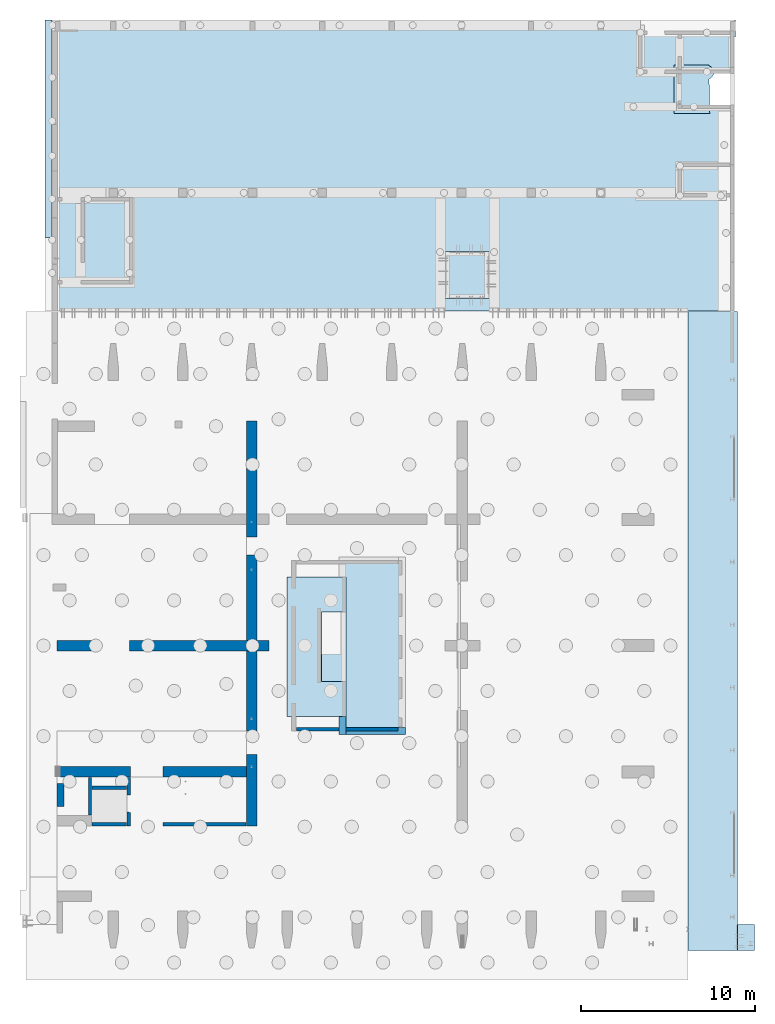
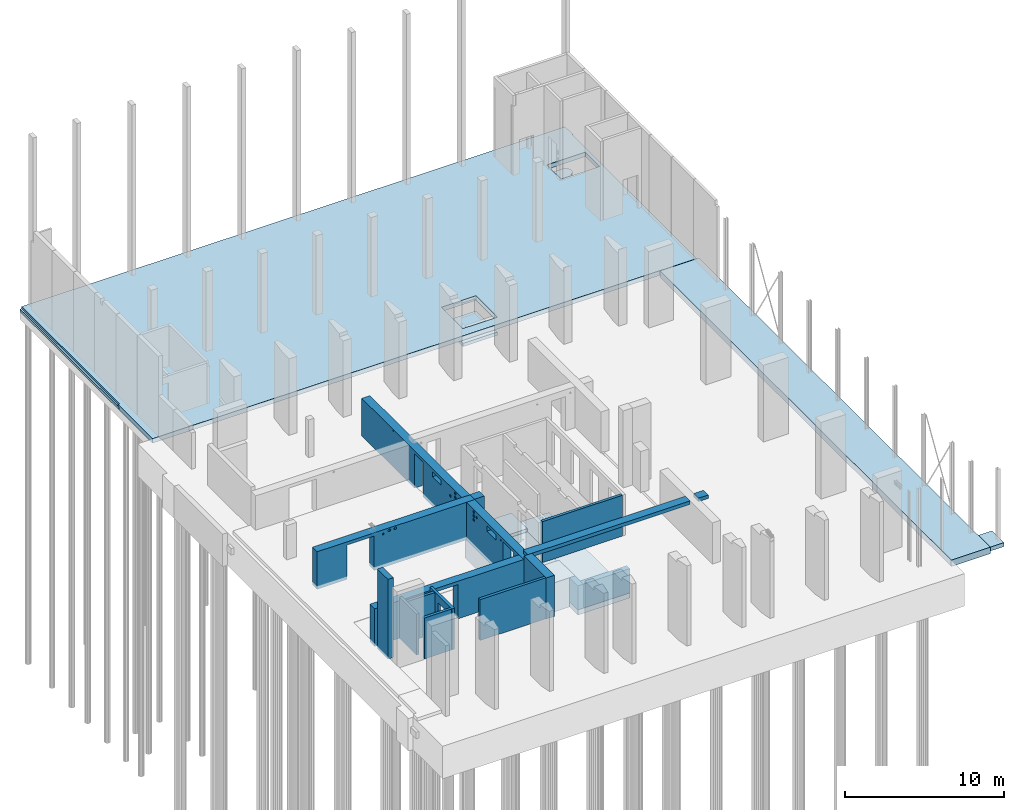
# One storey, part 18 of 26: 13 walls, 8 slabs, 28 openings.
"""IFC2X3 building model written with IfcOpenShell, lengths in millimetres."""

import ifcopenshell
import ifcopenshell.guid

model = None  # the IFC model being written
_history = None  # IfcOwnerHistory: only IFC2X3 demands one
_inside = {}  # id of a spatial element -> (the spatial element, [elements in it])
_under = {}  # id of a project, library or spatial element -> (it, [spatial elements below it])
_declared = {}  # id of a project -> (the project, [libraries it declares])
_typed = {}  # id of a type object -> (the type object, [elements of that type])
_made_of = {}  # id of a material, layer set ... -> (it, [elements and type objects made of it])


def new_model(schema):
    """Start an empty IFC model of exactly this schema.

    Asked for "IFC4X3", IfcOpenShell would pick the latest addendum, in which some entities
    have other attributes; the version numbers below select the first issue.
    IFC2X3 requires an IfcOwnerHistory on every rooted entity: one is made here for all.
    """
    global model, _history
    if schema == "IFC4X3":
        model = ifcopenshell.file(schema_version=(4, 3, 0, 0))
    else:
        model = ifcopenshell.file(schema=schema)
    _inside.clear()
    _under.clear()
    _declared.clear()
    _typed.clear()
    _made_of.clear()
    _history = None
    if model.schema == "IFC2X3":
        org = make("IfcOrganization", Name="unknown")
        user = make(
            "IfcPersonAndOrganization",
            ThePerson=make("IfcPerson", FamilyName="unknown"),
            TheOrganization=org,
        )
        app = make(
            "IfcApplication",
            ApplicationDeveloper=org,
            Version="unknown",
            ApplicationFullName="unknown",
            ApplicationIdentifier="unknown",
        )
        _history = make(
            "IfcOwnerHistory",
            OwningUser=user,
            OwningApplication=app,
            ChangeAction="ADDED",
            CreationDate=0,
        )
    return model


def make(cls, **values):
    """One entity of the class cls with the attributes given. An attribute that is None is left unset."""
    return model.create_entity(
        cls, **{name: value for name, value in values.items() if value is not None}
    )


def entity(cls, *values):
    """Any entity or typed value of the class cls, its attributes in the order of the schema. None: left unset."""
    e = model.create_entity(cls)
    for i, value in enumerate(values):
        if value is not None:
            e[i] = value
    return e


def rooted(cls, **values):
    """An entity with a GlobalId (a new one), such as an element, a storey or a relation."""
    return make(cls, GlobalId=ifcopenshell.guid.new(), OwnerHistory=_history, **values)


def si_unit(unit_type, name, prefix=None):
    """IfcSIUnit, for example si_unit("LENGTHUNIT", "METRE", prefix="MILLI")."""
    return make("IfcSIUnit", UnitType=unit_type, Prefix=prefix, Name=name)


def converted_unit(unit_type, name, factor, base, dimensions=None, offset=None):
    """IfcConversionBasedUnit, such as the inch: factor (a typed value) times the base unit."""
    return make(
        "IfcConversionBasedUnit"
        if offset is None
        else "IfcConversionBasedUnitWithOffset",
        ConversionOffset=offset,
        Dimensions=None
        if dimensions is None
        else entity("IfcDimensionalExponents", *dimensions),
        UnitType=unit_type,
        Name=name,
        ConversionFactor=make(
            "IfcMeasureWithUnit", ValueComponent=factor, UnitComponent=base
        ),
    )


def derived_unit(unit_type, elements):
    """IfcDerivedUnit: a product of units, each with its exponent."""
    return make(
        "IfcDerivedUnit",
        Elements=[
            make("IfcDerivedUnitElement", Unit=unit, Exponent=power)
            for unit, power in elements
        ],
        UnitType=unit_type,
    )


def assignment(units):
    """IfcUnitAssignment: the units of a project."""
    return None if units is None else make("IfcUnitAssignment", Units=units)


def point(xyz):
    """IfcCartesianPoint."""
    return None if xyz is None else make("IfcCartesianPoint", Coordinates=xyz)


def direction(xyz):
    """IfcDirection."""
    return None if xyz is None else make("IfcDirection", DirectionRatios=xyz)


def frame(location, z_axis=None, x_axis=None):
    """IfcAxis2Placement3D, a coordinate frame: its origin and axes. An axis left out is left unset."""
    return make(
        "IfcAxis2Placement3D",
        Location=point(location),
        Axis=direction(z_axis),
        RefDirection=direction(x_axis),
    )


def frame_2d(location, x_axis=None):
    """IfcAxis2Placement2D, a coordinate frame in the plane: its origin and x axis."""
    return make(
        "IfcAxis2Placement2D", Location=point(location), RefDirection=direction(x_axis)
    )


def origin():
    """The frame at (0, 0, 0) with its axes left unset."""
    return frame((0.0, 0.0, 0.0))


def origin_2d_with_axis():
    """The frame at (0, 0) in the plane with the x axis (1, 0) written out."""
    return frame_2d((0.0, 0.0), x_axis=(1.0, 0.0))


def place(relative_to, where):
    """IfcLocalPlacement: puts the frame where relative to a parent placement (None: the world)."""
    return make(
        "IfcLocalPlacement", PlacementRelTo=relative_to, RelativePlacement=where
    )


def context(
    kind, dimensions, precision=None, world=None, true_north=None, identifier=None
):
    """IfcGeometricRepresentationContext, for example the 3D "Model" context."""
    return make(
        "IfcGeometricRepresentationContext",
        ContextIdentifier=identifier,
        ContextType=kind,
        CoordinateSpaceDimension=dimensions,
        Precision=precision,
        WorldCoordinateSystem=world,
        TrueNorth=true_north,
    )


def subcontext(parent, identifier, kind, view, scale=None):
    """IfcGeometricRepresentationSubContext, for example "Body" below "Model"."""
    return make(
        "IfcGeometricRepresentationSubContext",
        ContextIdentifier=identifier,
        ContextType=kind,
        ParentContext=parent,
        TargetScale=scale,
        TargetView=view,
    )


def project(units=None, contexts=None):
    """IfcProject with its units and contexts."""
    return rooted(
        "IfcProject",
        Name="project",
        RepresentationContexts=contexts,
        UnitsInContext=assignment(units),
    )


def spatial(cls, under=None, at=None, **own):
    """A site, building, storey or space (cls), placed at a placement, below another one or the project."""
    s = rooted(cls, ObjectPlacement=at, **own)
    if under is not None:
        _under.setdefault(under.id(), (under, []))[1].append(s)
    return s


def polyline(points):
    """IfcPolyline through the points."""
    return make("IfcPolyline", Points=[point(p) for p in points])


def circle_curve(where, radius):
    """IfcCircle in the frame where."""
    return make("IfcCircle", Position=where, Radius=radius)


def parameter(value):
    """IfcParameterValue: where a trimmed curve begins or ends, as a parameter of its basis curve."""
    return model.create_entity("IfcParameterValue", value)


def trimmed(basis, trim1, trim2, sense, master):
    """IfcTrimmedCurve: the piece of a basis curve between two trims."""
    return make(
        "IfcTrimmedCurve",
        BasisCurve=basis,
        Trim1=trim1,
        Trim2=trim2,
        SenseAgreement=sense,
        MasterRepresentation=master,
    )


def segment(curve, same_sense, transition):
    """IfcCompositeCurveSegment."""
    return make(
        "IfcCompositeCurveSegment",
        Transition=transition,
        SameSense=same_sense,
        ParentCurve=curve,
    )


def composite_curve(segments, self_intersect=None):
    """IfcCompositeCurve: segments joined end to end."""
    return make("IfcCompositeCurve", Segments=segments, SelfIntersect=self_intersect)


def profile(cls, at=None, kind="AREA", **sizes):
    """A parametric profile (cls). Its sizes go by their IFC names, for example OverallWidth=200.0."""
    return make(cls, ProfileType=kind, Position=at, **sizes)


def rectangle(**sizes):
    """IfcRectangleProfileDef."""
    return profile("IfcRectangleProfileDef", **sizes)


def circle(**sizes):
    """IfcCircleProfileDef."""
    return profile("IfcCircleProfileDef", **sizes)


def outline(outer, holes=None, kind="AREA"):
    """IfcArbitraryClosedProfileDef: a profile drawn as a closed curve; with holes, ...WithVoids."""
    if holes is None:
        return make("IfcArbitraryClosedProfileDef", ProfileType=kind, OuterCurve=outer)
    return make(
        "IfcArbitraryProfileDefWithVoids",
        ProfileType=kind,
        OuterCurve=outer,
        InnerCurves=holes,
    )


def extrude(swept, where, along, depth):
    """IfcExtrudedAreaSolid: the profile swept, set in the frame where, extruded along a direction by depth."""
    return make(
        "IfcExtrudedAreaSolid",
        SweptArea=swept,
        Position=where,
        ExtrudedDirection=direction(along),
        Depth=depth,
    )


def clip(a, b, op="DIFFERENCE"):
    """IfcBooleanClippingResult: the solid a cut by the half space b."""
    return make(
        "IfcBooleanClippingResult", Operator=op, FirstOperand=a, SecondOperand=b
    )


def bounded_halfspace(plane, agree, where, boundary):
    """IfcPolygonalBoundedHalfSpace: a half space limited to a polygon's prism."""
    return make(
        "IfcPolygonalBoundedHalfSpace",
        BaseSurface=make("IfcPlane", Position=plane),
        AgreementFlag=agree,
        Position=where,
        PolygonalBoundary=boundary,
    )


def faces_of(points, faces, orient=None, outer=None):
    """IfcFace entities. A face is a list of loops; a loop is a list of indices into points, from 0.

    orient and outer hold one flag for each loop. By default every Orientation is true, the
    first loop of a face is its IfcFaceOuterBound and the others are IfcFaceBound.
    """
    made = []
    for i, loops in enumerate(faces):
        bounds = []
        for j, loop in enumerate(loops):
            is_outer = j == 0 if outer is None else outer[i][j]
            bounds.append(
                make(
                    "IfcFaceOuterBound" if is_outer else "IfcFaceBound",
                    Bound=make("IfcPolyLoop", Polygon=[points[k] for k in loop]),
                    Orientation=True if orient is None else orient[i][j],
                )
            )
        made.append(make("IfcFace", Bounds=bounds))
    return made


def faceted_brep(points, faces, orient=None, outer=None, voids=None):
    """IfcFacetedBrep: a solid bounded by flat faces; with voids (closed shells), ...WithVoids."""
    shared = [point(p) for p in points]
    hull = make("IfcClosedShell", CfsFaces=faces_of(shared, faces, orient, outer))
    if voids is None:
        return make("IfcFacetedBrep", Outer=hull)
    return make(
        "IfcFacetedBrepWithVoids",
        Outer=hull,
        Voids=[
            make(cls, CfsFaces=faces_of(shared, fs, o, b)) for cls, fs, o, b in voids
        ],
    )


def shape(context_of_items, identifier, shape_type, items):
    """IfcShapeRepresentation: the items that make up one representation, for example the "Body"."""
    return make(
        "IfcShapeRepresentation",
        ContextOfItems=context_of_items,
        RepresentationIdentifier=identifier,
        RepresentationType=shape_type,
        Items=items,
    )


def material(Name=None, Category=None):
    """IfcMaterial."""
    return make("IfcMaterial", Name=Name, Category=Category)


def layer(
    of_material, thickness, ventilated=None, Name=None, Category=None, Priority=None
):
    """IfcMaterialLayer: one layer of a wall or slab, of a material (None: an air gap)."""
    return make(
        "IfcMaterialLayer",
        Material=of_material,
        LayerThickness=thickness,
        IsVentilated=ventilated,
        Name=Name,
        Category=Category,
        Priority=Priority,
    )


def layer_set(layers, Name=None):
    """IfcMaterialLayerSet."""
    return make("IfcMaterialLayerSet", MaterialLayers=layers, LayerSetName=Name)


def layer_usage(for_layer_set, set_direction, sense, offset, extent=None):
    """IfcMaterialLayerSetUsage: how a layer set lies in its element."""
    return make(
        "IfcMaterialLayerSetUsage",
        ForLayerSet=for_layer_set,
        LayerSetDirection=set_direction,
        DirectionSense=sense,
        OffsetFromReferenceLine=offset,
        ReferenceExtent=extent,
    )


def made_of(thing, what):
    """Note that an element or type object is made of a material, layer set ...; save() writes the relation."""
    if what is not None:
        _made_of.setdefault(what.id(), (what, []))[1].append(thing)
    return thing


def type_object(cls, material=None, **own):
    """A type object (cls), such as IfcWallType, which elements share."""
    return made_of(rooted(cls, **own), material)


def element(
    cls,
    number,
    at=None,
    inside=None,
    cuts=None,
    type_object=None,
    material=None,
    context=None,
    identifier="Body",
    shape_type=None,
    held_by="IfcProductDefinitionShape",
    body=None,
    shapes=None,
    **own,
):
    """One element of the class cls, such as IfcWall. Its Tag is "e" and its number.

    at: its placement. inside: the storey or other place that contains it. cuts: it is an
    opening in that element (IfcRelVoidsElement). A single representation is given by context,
    identifier, shape_type and body (its items); several are given by shapes. held_by: the class
    of the entity that holds the representations. save() writes the other relations.
    """
    e = rooted(cls, Tag="e%d" % number, ObjectPlacement=at, **own)
    if body is not None:
        shapes = [shape(context, identifier, shape_type, body)]
    if shapes is not None:
        e.Representation = make(held_by, Representations=shapes)
    if inside is not None:
        _inside.setdefault(inside.id(), (inside, []))[1].append(e)
    if cuts is not None:
        rooted(
            "IfcRelVoidsElement", RelatingBuildingElement=cuts, RelatedOpeningElement=e
        )
    if type_object is not None:
        _typed.setdefault(type_object.id(), (type_object, []))[1].append(e)
    return made_of(e, material)


def aggregate(whole, parts):
    """IfcRelAggregates: a whole, such as a stair, and the parts it consists of."""
    return rooted("IfcRelAggregates", RelatingObject=whole, RelatedObjects=parts)


def save(model, path):
    """Write the relations noted so far, then the file.

    IfcRelAggregates (storeys below a building ...), IfcRelContainedInSpatialStructure (elements
    in a storey), IfcRelDefinesByType, IfcRelAssociatesMaterial and IfcRelDeclares: one each for
    every whole, place, type object, material and project.
    """
    for whole, parts in _under.values():
        aggregate(whole, parts)
    for where, things in _inside.values():
        rooted(
            "IfcRelContainedInSpatialStructure",
            RelatedElements=things,
            RelatingStructure=where,
        )
    for kind, things in _typed.values():
        rooted("IfcRelDefinesByType", RelatedObjects=things, RelatingType=kind)
    for what, things in _made_of.values():
        rooted("IfcRelAssociatesMaterial", RelatedObjects=things, RelatingMaterial=what)
    for by, libraries in _declared.values():
        rooted("IfcRelDeclares", RelatingContext=by, RelatedDefinitions=libraries)
    model.write(path)


model = new_model("IFC2X3")

# Units and contexts
model_context = context("Model", 3, precision=0.01, world=origin(), true_north=direction((6.12303176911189e-17, 1.0)))
body_context = subcontext(model_context, "Body", "Model", "MODEL_VIEW")
ifc_project = project(units=[si_unit("LENGTHUNIT", "METRE", prefix="MILLI"), si_unit("AREAUNIT", "SQUARE_METRE"), si_unit("VOLUMEUNIT", "CUBIC_METRE"), converted_unit("PLANEANGLEUNIT", "DEGREE", entity("IfcRatioMeasure", 0.0174532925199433), si_unit("PLANEANGLEUNIT", "RADIAN"), dimensions=[0, 0, 0, 0, 0, 0, 0]), si_unit("MASSUNIT", "GRAM", prefix="KILO"), derived_unit("MASSDENSITYUNIT", [(si_unit("MASSUNIT", "GRAM", prefix="KILO"), 1), (si_unit("LENGTHUNIT", "METRE"), -3)]), si_unit("TIMEUNIT", "SECOND"), si_unit("FREQUENCYUNIT", "HERTZ"), si_unit("THERMODYNAMICTEMPERATUREUNIT", "DEGREE_CELSIUS"), derived_unit("THERMALTRANSMITTANCEUNIT", [(si_unit("MASSUNIT", "GRAM", prefix="KILO"), 1), (si_unit("THERMODYNAMICTEMPERATUREUNIT", "KELVIN"), -1), (si_unit("TIMEUNIT", "SECOND"), -3)]), derived_unit("VOLUMETRICFLOWRATEUNIT", [(si_unit("LENGTHUNIT", "METRE"), 3), (si_unit("TIMEUNIT", "SECOND"), -1)]), si_unit("ELECTRICCURRENTUNIT", "AMPERE"), si_unit("ELECTRICVOLTAGEUNIT", "VOLT"), si_unit("POWERUNIT", "WATT"), si_unit("FORCEUNIT", "NEWTON", prefix="KILO"), si_unit("ILLUMINANCEUNIT", "LUX"), si_unit("LUMINOUSFLUXUNIT", "LUMEN"), si_unit("LUMINOUSINTENSITYUNIT", "CANDELA"), derived_unit("USERDEFINED", [(si_unit("MASSUNIT", "GRAM", prefix="KILO"), -1), (si_unit("LENGTHUNIT", "METRE"), -2), (si_unit("TIMEUNIT", "SECOND"), 3), (si_unit("LUMINOUSFLUXUNIT", "LUMEN"), 1)]), derived_unit("LINEARVELOCITYUNIT", [(si_unit("LENGTHUNIT", "METRE"), 1), (si_unit("TIMEUNIT", "SECOND"), -1)]), si_unit("PRESSUREUNIT", "PASCAL"), derived_unit("USERDEFINED", [(si_unit("LENGTHUNIT", "METRE"), -2), (si_unit("MASSUNIT", "GRAM", prefix="KILO"), 1), (si_unit("TIMEUNIT", "SECOND"), -2)])], contexts=[model_context])

# Site, building, storey
site_placement = place(None, origin())
site = spatial("IfcSite", under=ifc_project, at=site_placement, Name="Default", CompositionType="ELEMENT")
building_placement = place(site_placement, origin())
building = spatial("IfcBuilding", under=site, at=building_placement, Name="niet gebruiken", CompositionType="ELEMENT")
storey_placement = place(building_placement, origin())
storey = spatial("IfcBuildingStorey", under=building, at=storey_placement, Name="00 begane grond", CompositionType="ELEMENT", Elevation=0.0)

# Slabs
ifc_material_1 = material(Name="NLRS_f2_beton ihwg")
slab_1_placement = place(storey_placement, frame((137730.0, 13445.0, -5000.0)))
element("IfcSlab", 1, at=slab_1_placement, inside=storey, material=ifc_material_1, Name="NLRS_16.13_SFO_LB_fundatiepoer_gen:3400x8000x2400", ObjectType="NLRS_16.13_SFO_LB_fundatiepoer_gen:3400x8000x2400", PredefinedType="BASESLAB", context=body_context, shape_type="Brep", body=[
    faceted_brep([(3400.0, 8000.0, 0.0), (3400.0, 0.0, 0.0), (3000.0, 0.0, 0.0), (0.0, 0.0, 0.0), (0.0, 8000.0, 0.0), (3000.0, 8000.0, 0.0), (0.0, 0.0, 2250.0), (0.0, 8000.0, 2250.0), (3400.0, 0.0, 400.0), (3400.0, 0.0, 2250.0), (3000.0, 0.0, 2250.0), (3400.0, 8000.0, 400.0), (3400.0, 8000.0, 2250.0), (3400.0, 6000.0, 2250.0), (3400.0, 6000.0, 2000.0), (3400.0, 4440.0, 2000.0), (3400.0, 3560.0, 2000.0), (3400.0, 2000.0, 2000.0), (3400.0, 2000.0, 2250.0), (3000.0, 8000.0, 2250.0), (3100.0, 2000.0, 2250.0), (1995.0, 2000.0, 2250.0), (1995.0, 6000.0, 2250.0), (3100.0, 6000.0, 2250.0), (1995.0, 6000.0, 2000.0), (1995.0, 2000.0, 2000.0), (3100.0, 2000.0, 2000.0), (3100.0, 6000.0, 2000.0)], [[[0, 1, 2, 3, 4, 5]], [[4, 3, 6, 7]], [[6, 3, 2, 1, 8, 9, 10]], [[1, 0, 11, 12, 13, 14, 15, 16, 17, 18, 9, 8]], [[4, 7, 19, 12, 11, 0, 5]], [[7, 6, 10, 9, 18, 20, 21, 22, 23, 13, 12, 19]], [[24, 25, 26, 17, 16, 15, 14, 27]], [[22, 24, 27, 14, 13, 23]], [[25, 24, 22, 21]], [[25, 21, 20, 18, 17, 26]]]),
])
ifc_layer_1 = layer(ifc_material_1, 400.0)
ifc_layer_set_1 = layer_set([ifc_layer_1], Name="Floor:NLRS_13.22_FL_beton ihwg d=400_gen")
ifc_layer_usage_1 = layer_usage(ifc_layer_set_1, "AXIS3", "POSITIVE", 0.0)
slab_2_placement = place(storey_placement, origin())
element("IfcSlab", 2, at=slab_2_placement, inside=storey, material=ifc_layer_usage_1, Name="Floor:NLRS_13.22_FL_beton ihwg d=400_gen", ObjectType="Floor:NLRS_13.22_FL_beton ihwg d=400_gen", PredefinedType="BASESLAB", context=body_context, shape_type="SweptSolid", body=[
    extrude(outline(polyline([(-5072.50000000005, -1050.0), (-4027.5, -1050.0), (-4027.5, -650.0), (3972.5, -650.0), (3972.5, -1050.0), (5127.50000000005, -1050.0), (5127.50000000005, 2750.0), (-5072.50000000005, 2750.0), (-5072.50000000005, -1050.0)])), frame((141780.0, 17472.5, -4600.0), z_axis=(0.0, 0.0, -1.0), x_axis=(0.0, 1.0, 0.0)), (0.0, 0.0, 1.0), 400.0),
])

# Slab, opening
ifc_layer_2 = layer(ifc_material_1, 500.0)
ifc_layer_set_2 = layer_set([ifc_layer_2], Name="Floor:NLRS_13.22_FL_beton ihwg d=500_gen")
ifc_layer_usage_2 = layer_usage(ifc_layer_set_2, "AXIS3", "POSITIVE", 0.0)
slab_3_placement = place(storey_placement, frame((160750.0, 0.0, -750.0)))
slab_3 = element("IfcSlab", 3, at=slab_3_placement, inside=storey, material=ifc_layer_usage_2, Name="Floor:NLRS_13.22_FL_beton ihwg d=500_gen", ObjectType="Floor:NLRS_13.22_FL_beton ihwg d=500_gen", PredefinedType="BASESLAB", context=body_context, shape_type="SweptSolid", body=[
    extrude(rectangle(XDim=36700.0000000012, YDim=2840.00000000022, at=frame_2d((0.0, 0.0), x_axis=(0.0, 1.0))), frame((1420.0, 18350.0, 500.0), z_axis=(0.0, 0.0, -1.0), x_axis=(-1.0, 0.0, 0.0)), (0.0, 0.0, 1.0), 500.0),
])
opening_1_placement = place(slab_3_placement, origin())
element("IfcOpeningElement", 4, at=opening_1_placement, cuts=slab_3, ObjectType="Opening", context=body_context, shape_type="SweptSolid", body=[
    extrude(outline(polyline([(-120.005766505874, -17.4714753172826), (119.994169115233, -17.4714753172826), (119.994169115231, -4.39874812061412), (121.002225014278, -4.27053587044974), (120.002225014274, 3.59186337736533), (120.00222501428, 22.5285246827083), (-119.992852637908, 22.5285246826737), (-119.992852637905, 3.63056484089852), (-120.997774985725, -4.27053587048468), (-120.005766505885, -4.39670708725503), (-120.005766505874, -17.4714753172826)])), frame((2822.52852468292, 50.0, 355.0071473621), z_axis=(0.0, 1.0, 0.0), x_axis=(0.0, 0.0, -1.0)), (0.0, 0.0, 1.0), 1399.99999999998),
])

# Slab
ifc_layer_3 = layer(ifc_material_1, 250.0)
ifc_layer_set_3 = layer_set([ifc_layer_3], Name="Floor:NLRS_13.22_FL_beton ihwg d=250_gen")
ifc_layer_usage_3 = layer_usage(ifc_layer_set_3, "AXIS3", "POSITIVE", 0.0)
slab_4_placement = place(storey_placement, origin())
element("IfcSlab", 5, at=slab_4_placement, inside=storey, material=ifc_layer_usage_3, Name="Floor:NLRS_13.22_FL_beton ihwg d=250_gen", ObjectType="Floor:NLRS_13.22_FL_beton ihwg d=250_gen", PredefinedType="BASESLAB", context=body_context, shape_type="SweptSolid", body=[
    extrude(outline(composite_curve([segment(polyline([(-1723.64151521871, -1356.19477339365), (1076.35848478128, -1356.19477339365)]), True, "CONTINUOUS"), segment(polyline([(1076.35848478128, -1356.19477339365), (1076.35848478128, 661.758019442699)]), True, "CONTINUOUS"), segment(polyline([(1076.35848478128, 661.758019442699), (1021.08173419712, 662.745608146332)]), True, "CONTINUOUS"), segment(trimmed(circle_curve(frame_2d((645.178094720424, 551.607733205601), x_axis=(0.958965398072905, 0.28352313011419)), 391.988741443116), [parameter(0.0)], [parameter(145.011717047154)], True, "PARAMETER"), True, "CONTINUOUS"), segment(polyline([(273.484326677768, 676.102376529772), (-1723.64151521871, 711.783542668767)]), True, "CONTINUOUS"), segment(polyline([(-1723.64151521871, 711.783542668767), (-1723.64151521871, -1356.19477339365)]), True, "CONTINUOUS")], self_intersect=False)), frame((161296.194773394, 49773.6415152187, -1350.0), z_axis=(0.0, 0.0, -1.0), x_axis=(0.0, 1.0, 0.0)), (0.0, 0.0, 1.0), 250.0),
])

# Slab, openings
ifc_layer_4 = layer(ifc_material_1, 350.0)
ifc_layer_set_4 = layer_set([ifc_layer_4], Name="Floor:NLRS_13.22_FL_beton ihwg d=350_gen")
ifc_layer_usage_4 = layer_usage(ifc_layer_set_4, "AXIS3", "POSITIVE", 0.0)
slab_5_placement = place(storey_placement, frame((123825.0, 36720.0, -600.0)))
slab_5 = element("IfcSlab", 6, at=slab_5_placement, inside=storey, material=ifc_layer_usage_4, Name="Floor:NLRS_13.22_FL_beton ihwg d=350_gen", ObjectType="Floor:NLRS_13.22_FL_beton ihwg d=350_gen", PredefinedType="ROOF", context=body_context, shape_type="SweptSolid", body=[
    extrude(outline(polyline([(19707.5000000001, 8352.50000000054), (-19832.5, 8352.50000000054), (-19832.5, 7377.50000000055), (-19782.5000000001, 7377.50000000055), (-19782.5000000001, -8352.50000000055), (19832.5, -8352.50000000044), (19832.5, -4011.49999999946), (19707.5000000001, -4011.49999999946), (19707.5000000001, 8352.50000000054)])), frame((19832.5, 8352.50000000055, 350.0), z_axis=(0.0, 0.0, -1.0), x_axis=(-1.0, 0.0, 0.0)), (0.0, 0.0, 1.0), 350.0),
])
opening_2_placement = place(slab_5_placement, frame((37965.0, 12730.0, 350.0)))
element("IfcOpeningElement", 7, at=opening_2_placement, cuts=slab_5, Name="Floor:NLRS_13.22_FL_beton ihwg d=350_gen:2", ObjectType="Opening", context=body_context, shape_type="SweptSolid", body=[
    extrude(rectangle(XDim=2800.00000000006, YDim=1799.99999999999, at=origin_2d_with_axis()), frame((0.0, 0.0, 0.0), z_axis=(0.0, 0.0, -1.0), x_axis=(-1.0, 0.0, 0.0)), (0.0, 0.0, 1.0), 350.0),
])
opening_3_placement = place(slab_5_placement, frame((24250.0, 2055.0, 350.0)))
element("IfcOpeningElement", 8, at=opening_3_placement, cuts=slab_5, Name="Floor:NLRS_13.22_FL_beton ihwg d=350_gen:3", ObjectType="Opening", context=body_context, shape_type="SweptSolid", body=[
    extrude(rectangle(XDim=2700.00000000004, YDim=2499.99999999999, at=origin_2d_with_axis()), frame((0.0, 0.0, 0.0), z_axis=(0.0, 0.0, -1.0), x_axis=(0.0, -1.0, 0.0)), (0.0, 0.0, 1.0), 350.0),
])

# Slabs
ifc_material_2 = material(Name="NLRS_f2_beton prefab")
ifc_layer_5 = layer(ifc_material_2, 250.0)
ifc_layer_set_5 = layer_set([ifc_layer_5], Name="Floor:NLRS_23.21_FL_beton prefab d=250_gen")
ifc_layer_usage_5 = layer_usage(ifc_layer_set_5, "AXIS3", "POSITIVE", 0.0)
slab_6_placement = place(storey_placement, origin())
element("IfcSlab", 9, at=slab_6_placement, inside=storey, material=ifc_layer_usage_5, Name="Floor:NLRS_23.21_FL_beton prefab d=250_gen", ObjectType="Floor:NLRS_23.21_FL_beton prefab d=250_gen", PredefinedType="FLOOR", context=body_context, shape_type="SweptSolid", body=[
    extrude(rectangle(XDim=2699.99999999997, YDim=2499.99999999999, at=frame_2d((4.32009983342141e-12, 0.0), x_axis=(1.0, 0.0))), frame((148075.0, 38775.0, -1400.0), z_axis=(0.0, 0.0, -1.0), x_axis=(0.0, 1.0, 0.0)), (0.0, 0.0, 1.0), 250.0),
])
ifc_layer_6 = layer(ifc_material_1, 198.0)
ifc_layer_set_6 = layer_set([ifc_layer_6], Name="Floor:NLRS_13.22_FL_beton ihwg d=198_gen")
ifc_layer_usage_6 = layer_usage(ifc_layer_set_6, "AXIS3", "POSITIVE", 0.0)
slab_7_placement = place(storey_placement, origin())
element("IfcSlab", 10, at=slab_7_placement, inside=storey, material=ifc_layer_usage_6, Name="Floor:NLRS_13.22_FL_beton ihwg d=198_gen", ObjectType="Floor:NLRS_13.22_FL_beton ihwg d=198_gen", PredefinedType="BASESLAB", context=body_context, shape_type="SweptSolid", body=[
    extrude(rectangle(XDim=12489.0, YDim=424.999999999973, at=frame_2d((-4.54747350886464e-12, 8.65441052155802e-12), x_axis=(1.0, 0.0))), frame((124037.5, 47180.5, -402.0), z_axis=(0.0, 0.0, -1.0), x_axis=(0.0, 1.0, 0.0)), (0.0, 0.0, 1.0), 198.0),
])
ifc_layer_7 = layer(ifc_material_1, 300.0)
ifc_layer_set_7 = layer_set([ifc_layer_7], Name="Floor:NLRS_13.22_FL_beton ihwg d=300_gen")
ifc_layer_usage_7 = layer_usage(ifc_layer_set_7, "AXIS3", "POSITIVE", 0.0)
slab_8_placement = place(storey_placement, origin())
element("IfcSlab", 11, at=slab_8_placement, inside=storey, material=ifc_layer_usage_7, Name="Floor:NLRS_13.22_FL_beton ihwg d=300_gen", ObjectType="Floor:NLRS_13.22_FL_beton ihwg d=300_gen", PredefinedType="BASESLAB", context=body_context, shape_type="SweptSolid", body=[
    extrude(rectangle(XDim=1499.99999999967, YDim=1000.00000000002, at=frame_2d((0.0, 1.73372427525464e-11), x_axis=(1.0, 0.0))), frame((164090.0, 750.0, -250.0), z_axis=(0.0, 0.0, -1.0), x_axis=(0.0, 1.0, 0.0)), (0.0, 0.0, 1.0), 300.0),
])

# Walls
ifc_layer_8 = layer(ifc_material_1, 400.0)
ifc_layer_set_8 = layer_set([ifc_layer_8], Name="Basic Wall:NLRS_16.21_WA_beton ihwg d=400_gen")
ifc_layer_usage_8 = layer_usage(ifc_layer_set_8, "AXIS2", "NEGATIVE", 200.0)
wall_type_1 = type_object("IfcWallType", Name="Basic Wall:NLRS_16.21_WA_beton ihwg d=400_gen", PredefinedType="STANDARD", material=ifc_layer_set_8)
wall_1_placement = place(storey_placement, frame((140930.0, 13445.0, -4600.0), z_axis=(0.0, 0.0, 1.0), x_axis=(0.0, -1.0, 0.0)))
element("IfcWallStandardCase", 12, at=wall_1_placement, inside=storey, type_object=wall_type_1, material=ifc_layer_usage_8, Name="Basic Wall:NLRS_16.21_WA_beton ihwg d=400_gen", ObjectType="Basic Wall:NLRS_16.21_WA_beton ihwg d=400_gen", context=body_context, shape_type="SweptSolid", body=[
    extrude(rectangle(XDim=1045.0, YDim=400.000000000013, at=frame_2d((522.499999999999, 0.0), x_axis=(-1.0, 0.0))), origin(), (0.0, 0.0, 1.0), 1850.0),
])
ifc_layer_usage_9 = layer_usage(ifc_layer_set_8, "AXIS2", "NEGATIVE", 200.0)
wall_2_placement = place(storey_placement, frame((141130.0, 12600.0, -4600.0)))
element("IfcWallStandardCase", 13, at=wall_2_placement, inside=storey, type_object=wall_type_1, material=ifc_layer_usage_9, Name="Basic Wall:NLRS_16.21_WA_beton ihwg d=400_gen", ObjectType="Basic Wall:NLRS_16.21_WA_beton ihwg d=400_gen", context=body_context, shape_type="SweptSolid", body=[
    extrude(rectangle(XDim=3399.99999999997, YDim=400.0, at=frame_2d((1699.99999999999, -4.9737991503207e-13), x_axis=(-1.0, 0.0))), origin(), (0.0, 0.0, 1.0), 1850.0),
])

# Wall, openings
ifc_layer_9 = layer(ifc_material_1, 600.0)
ifc_layer_set_9 = layer_set([ifc_layer_9], Name="Basic Wall:NLRS_22.21_WA_beton ihwg d=600_gen")
ifc_layer_usage_10 = layer_usage(ifc_layer_set_9, "AXIS2", "NEGATIVE", 300.0)
wall_type_2 = type_object("IfcWallType", Name="Basic Wall:NLRS_22.21_WA_beton ihwg d=600_gen", PredefinedType="STANDARD", material=ifc_layer_set_9)
wall_3_placement = place(storey_placement, frame((124530.0, 10250.0, -250.0)))
wall_3 = element("IfcWallStandardCase", 14, at=wall_3_placement, inside=storey, type_object=wall_type_2, material=ifc_layer_usage_10, Name="Basic Wall:NLRS_22.21_WA_beton ihwg d=600_gen", ObjectType="Basic Wall:NLRS_22.21_WA_beton ihwg d=600_gen", context=body_context, shape_type="Clipping", body=[
    clip(extrude(rectangle(XDim=24284.0000000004, YDim=599.999999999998, at=frame_2d((12142.0000000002, -3.12638803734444e-13), x_axis=(-1.0, 0.0))), origin(), (0.0, 0.0, 1.0), 3160.0), bounded_halfspace(frame((10870.0, -300.0, 2890.0), z_axis=(-1.0, 0.0, 0.0), x_axis=(0.0, -1.0, 0.0)), True, frame((10870.0, -300.0, 2890.0), z_axis=(-1.0, 0.0, 0.0), x_axis=(0.0, -1.0, 0.0)), polyline([(0.0, 0.0), (-600.0, 0.0), (-600.0, -2890.0), (0.0, -2890.0), (0.0, 0.0)]))),
])
opening_4_placement = place(storey_placement, frame((124530.0, 10250.0, -250.0)))
element("IfcOpeningElement", 15, at=opening_4_placement, cuts=wall_3, Name="Basic Wall:NLRS_22.21_WA_beton ihwg d=600_gen:1", ObjectType="Opening", context=body_context, shape_type="SweptSolid", body=[
    extrude(rectangle(XDim=3160.0, YDim=600.0, at=frame_2d((268.000000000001, -60.0000000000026), x_axis=(1.0, 0.0))), frame((22970.0, 60.0, 1848.0), z_axis=(1.0, 0.0, 0.0), x_axis=(0.0, 0.0, -1.0)), (0.0, 0.0, 1.0), 600.000000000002),
])
opening_5_placement = place(wall_3_placement, origin())
element("IfcOpeningElement", 16, at=opening_5_placement, cuts=wall_3, Name="Basic Wall:NLRS_22.21_WA_beton ihwg d=600_gen", ObjectType="Opening", context=body_context, shape_type="SweptSolid", body=[
    extrude(rectangle(XDim=2635.0, YDim=1859.99999999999, at=origin_2d_with_axis()), frame((5140.0, -300.0, 1317.5), z_axis=(0.0, 1.0, 0.0), x_axis=(0.0, 0.0, -1.0)), (0.0, 0.0, 1.0), 600.0),
])
opening_6_placement = place(wall_3_placement, origin())
element("IfcOpeningElement", 17, at=opening_6_placement, cuts=wall_3, Name="Basic Wall:NLRS_22.21_WA_beton ihwg d=600_gen", ObjectType="Opening", context=body_context, shape_type="SweptSolid", body=[
    extrude(rectangle(XDim=270.0, YDim=11170.0000000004, at=frame_2d((-8.64019966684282e-12, -2.70006239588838e-13), x_axis=(0.0, 1.0))), frame((5585.0, 300.0, 3025.0), z_axis=(0.0, -1.0, 0.0), x_axis=(-1.0, 0.0, 0.0)), (0.0, 0.0, 1.0), 600.0),
])

ifc_layer_usage_11 = layer_usage(ifc_layer_set_9, "AXIS2", "POSITIVE", -300.0)
wall_4_placement = place(storey_placement, frame((124530.0, 17500.0, -250.0)))
wall_4 = element("IfcWallStandardCase", 18, at=wall_4_placement, inside=storey, type_object=wall_type_2, material=ifc_layer_usage_11, Name="Basic Wall:NLRS_22.21_WA_beton ihwg d=600_gen", ObjectType="Basic Wall:NLRS_22.21_WA_beton ihwg d=600_gen", context=body_context, shape_type="SweptSolid", body=[
    extrude(rectangle(XDim=11470.0000000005, YDim=600.000000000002, at=frame_2d((5735.00000000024, -1.98951966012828e-13), x_axis=(-1.0, 0.0))), origin(), (0.0, 0.0, 1.0), 2890.0),
])
opening_7_placement = place(wall_4_placement, origin())
element("IfcOpeningElement", 19, at=opening_7_placement, cuts=wall_4, Name="Basic Wall:NLRS_22.21_WA_beton ihwg d=600_gen", ObjectType="Opening", context=body_context, shape_type="SweptSolid", body=[
    extrude(rectangle(XDim=2650.0, YDim=1985.0, at=frame_2d((0.0, -8.69704308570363e-12), x_axis=(1.0, 0.0))), frame((3152.50000000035, -300.0, 1325.0), z_axis=(0.0, 1.0, 0.0), x_axis=(0.0, 0.0, -1.0)), (0.0, 0.0, 1.0), 600.0),
])
opening_8_placement = place(wall_4_placement, origin())
element("IfcOpeningElement", 20, at=opening_8_placement, cuts=wall_4, Name="Basic Wall:NLRS_22.21_WA_beton ihwg d=600_gen", ObjectType="Opening", context=body_context, shape_type="SweptSolid", body=[
    extrude(circle(Radius=100.0, at=frame_2d((0.0, -5.41433564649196e-13), x_axis=(1.0, 0.0))), frame((5695.0, -300.0, 2700.0), z_axis=(0.0, 1.0, 0.0), x_axis=(1.0, 0.0, 0.0)), (0.0, 0.0, 1.0), 600.0),
])
opening_9_placement = place(wall_4_placement, origin())
element("IfcOpeningElement", 21, at=opening_9_placement, cuts=wall_4, Name="Basic Wall:NLRS_22.21_WA_beton ihwg d=600_gen", ObjectType="Opening", context=body_context, shape_type="SweptSolid", body=[
    extrude(circle(Radius=100.0, at=frame_2d((0.0, -5.41433564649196e-13), x_axis=(1.0, 0.0))), frame((5265.0, -300.0, 2700.0), z_axis=(0.0, 1.0, 0.0), x_axis=(1.0, 0.0, 0.0)), (0.0, 0.0, 1.0), 600.0),
])
opening_10_placement = place(wall_4_placement, origin())
element("IfcOpeningElement", 22, at=opening_10_placement, cuts=wall_4, Name="Basic Wall:NLRS_22.21_WA_beton ihwg d=600_gen", ObjectType="Opening", context=body_context, shape_type="SweptSolid", body=[
    extrude(circle(Radius=62.5, at=frame_2d((0.0, -2.70716782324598e-13), x_axis=(1.0, 0.0))), frame((4820.0, -300.0, 2570.0), z_axis=(0.0, 1.0, 0.0), x_axis=(1.0, 0.0, 0.0)), (0.0, 0.0, 1.0), 600.0),
])

ifc_layer_usage_12 = layer_usage(ifc_layer_set_9, "AXIS2", "NEGATIVE", 300.0)
wall_5_placement = place(storey_placement, frame((135700.0, 7150.0, -250.0), z_axis=(0.0, 0.0, 1.0), x_axis=(0.0, 1.0, 0.0)))
wall_5 = element("IfcWallStandardCase", 23, at=wall_5_placement, inside=storey, type_object=wall_type_2, material=ifc_layer_usage_12, Name="Basic Wall:NLRS_22.21_WA_beton ihwg d=600_gen", ObjectType="Basic Wall:NLRS_22.21_WA_beton ihwg d=600_gen", context=body_context, shape_type="Clipping", body=[
    clip(extrude(rectangle(XDim=23250.0, YDim=600.000000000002, at=frame_2d((11625.0, 2.04636307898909e-12), x_axis=(-1.0, 0.0))), origin(), (0.0, 0.0, 1.0), 3160.0), bounded_halfspace(frame((2800.0, -300.0, 2890.0), z_axis=(-1.0, 0.0, 0.0), x_axis=(0.0, 0.0, 1.0)), True, frame((2800.0, -300.0, 2890.0), z_axis=(-1.0, 0.0, 0.0), x_axis=(0.0, 0.0, 1.0)), polyline([(0.0, 0.0), (270.0, 0.0), (270.0, 600.0), (0.0, 600.0), (0.0, 0.0)]))),
])
opening_11_placement = place(storey_placement, frame((135700.0, 7150.0, -250.0), z_axis=(0.0, 0.0, 1.0), x_axis=(0.0, 1.0, 0.0)))
element("IfcOpeningElement", 24, at=opening_11_placement, cuts=wall_5, Name="Basic Wall:NLRS_22.21_WA_beton ihwg d=600_gen:1", ObjectType="Opening", context=body_context, shape_type="SweptSolid", body=[
    extrude(rectangle(XDim=2890.0, YDim=600.000000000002, at=origin_2d_with_axis()), frame((10050.0, 0.0, 1445.0), z_axis=(1.0, 0.0, 0.0), x_axis=(0.0, 0.0, -1.0)), (0.0, 0.0, 1.0), 600.0),
])
opening_12_placement = place(wall_5_placement, origin())
element("IfcOpeningElement", 25, at=opening_12_placement, cuts=wall_5, Name="Basic Wall:NLRS_22.21_WA_beton ihwg d=600_gen", ObjectType="Opening", context=body_context, shape_type="SweptSolid", body=[
    extrude(rectangle(XDim=2650.0, YDim=1350.0, at=origin_2d_with_axis()), frame((4775.0, -300.0, 1325.0), z_axis=(0.0, 1.0, 0.0), x_axis=(0.0, 0.0, -1.0)), (0.0, 0.0, 1.0), 600.000000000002),
])
opening_13_placement = place(wall_5_placement, origin())
element("IfcOpeningElement", 26, at=opening_13_placement, cuts=wall_5, Name="Basic Wall:NLRS_22.21_WA_beton ihwg d=600_gen", ObjectType="Opening", context=body_context, shape_type="SweptSolid", body=[
    extrude(rectangle(XDim=2650.0, YDim=1044.0, at=frame_2d((0.0, 2.1600499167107e-12), x_axis=(1.0, 0.0))), frame((16078.0, -300.0, 1325.0), z_axis=(0.0, 1.0, 0.0), x_axis=(0.0, 0.0, -1.0)), (0.0, 0.0, 1.0), 600.000000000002),
])
opening_14_placement = place(wall_5_placement, origin())
element("IfcOpeningElement", 27, at=opening_14_placement, cuts=wall_5, Name="Basic Wall:NLRS_22.21_WA_beton ihwg d=600_gen", ObjectType="Opening", context=body_context, shape_type="SweptSolid", body=[
    extrude(rectangle(XDim=400.0, YDim=1100.0, at=frame_2d((0.0, 2.1600499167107e-12), x_axis=(1.0, 0.0))), frame((6900.0, -300.0, 2450.0), z_axis=(0.0, 1.0, 0.0), x_axis=(0.0, 0.0, -1.0)), (0.0, 0.0, 1.0), 600.000000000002),
])
opening_15_placement = place(wall_5_placement, origin())
element("IfcOpeningElement", 28, at=opening_15_placement, cuts=wall_5, Name="Basic Wall:NLRS_22.21_WA_beton ihwg d=600_gen", ObjectType="Opening", context=body_context, shape_type="SweptSolid", body=[
    extrude(circle(Radius=100.0, at=frame_2d((0.0, -2.70716782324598e-13), x_axis=(1.0, 0.0))), frame((11460.0, -300.0, 2400.0), z_axis=(0.0, 1.0, 0.0), x_axis=(1.0, 0.0, 0.0)), (0.0, 0.0, 1.0), 600.000000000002),
])
opening_16_placement = place(wall_5_placement, origin())
element("IfcOpeningElement", 29, at=opening_16_placement, cuts=wall_5, Name="Basic Wall:NLRS_22.21_WA_beton ihwg d=600_gen", ObjectType="Opening", context=body_context, shape_type="SweptSolid", body=[
    extrude(circle(Radius=100.0, at=frame_2d((0.0, -5.41433564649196e-13), x_axis=(1.0, 0.0))), frame((9130.00549450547, -300.0, 2700.0), z_axis=(0.0, 1.0, 0.0), x_axis=(1.0, 0.0, 0.0)), (0.0, 0.0, 1.0), 600.000000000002),
])
opening_17_placement = place(wall_5_placement, origin())
element("IfcOpeningElement", 30, at=opening_17_placement, cuts=wall_5, Name="Basic Wall:NLRS_22.21_WA_beton ihwg d=600_gen", ObjectType="Opening", context=body_context, shape_type="SweptSolid", body=[
    extrude(circle(Radius=100.0, at=frame_2d((0.0, -2.70716782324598e-13), x_axis=(1.0, 0.0))), frame((9130.00549450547, -300.0, 2400.0), z_axis=(0.0, 1.0, 0.0), x_axis=(1.0, 0.0, 0.0)), (0.0, 0.0, 1.0), 600.000000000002),
])
opening_18_placement = place(wall_5_placement, origin())
element("IfcOpeningElement", 31, at=opening_18_placement, cuts=wall_5, Name="Basic Wall:NLRS_22.21_WA_beton ihwg d=600_gen", ObjectType="Opening", context=body_context, shape_type="SweptSolid", body=[
    extrude(circle(Radius=80.0, at=frame_2d((0.0, -5.41433564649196e-13), x_axis=(1.0, 0.0))), frame((8760.00549450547, -300.0, 2490.0), z_axis=(0.0, 1.0, 0.0), x_axis=(1.0, 0.0, 0.0)), (0.0, 0.0, 1.0), 600.000000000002),
])
opening_19_placement = place(wall_5_placement, origin())
element("IfcOpeningElement", 32, at=opening_19_placement, cuts=wall_5, Name="Basic Wall:NLRS_22.21_WA_beton ihwg d=600_gen", ObjectType="Opening", context=body_context, shape_type="SweptSolid", body=[
    extrude(circle(Radius=100.0, at=frame_2d((0.0, -5.41433564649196e-13), x_axis=(1.0, 0.0))), frame((9130.00549450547, -300.0, 2100.0), z_axis=(0.0, 1.0, 0.0), x_axis=(1.0, 0.0, 0.0)), (0.0, 0.0, 1.0), 600.000000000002),
])
opening_20_placement = place(wall_5_placement, origin())
element("IfcOpeningElement", 33, at=opening_20_placement, cuts=wall_5, Name="Basic Wall:NLRS_22.21_WA_beton ihwg d=600_gen", ObjectType="Opening", context=body_context, shape_type="SweptSolid", body=[
    extrude(circle(Radius=100.0, at=frame_2d((0.0, -5.41433564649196e-13), x_axis=(1.0, 0.0))), frame((11460.0, -300.0, 2700.0), z_axis=(0.0, 1.0, 0.0), x_axis=(1.0, 0.0, 0.0)), (0.0, 0.0, 1.0), 600.000000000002),
])
opening_21_placement = place(wall_5_placement, origin())
element("IfcOpeningElement", 34, at=opening_21_placement, cuts=wall_5, Name="Basic Wall:NLRS_22.21_WA_beton ihwg d=600_gen", ObjectType="Opening", context=body_context, shape_type="SweptSolid", body=[
    extrude(circle(Radius=62.5, at=frame_2d((0.0, -2.70716782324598e-13), x_axis=(1.0, 0.0))), frame((11460.0, -300.0, 2150.0), z_axis=(0.0, 1.0, 0.0), x_axis=(1.0, 0.0, 0.0)), (0.0, 0.0, 1.0), 600.000000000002),
])
opening_22_placement = place(wall_5_placement, origin())
element("IfcOpeningElement", 35, at=opening_22_placement, cuts=wall_5, Name="Basic Wall:NLRS_22.21_WA_beton ihwg d=600_gen", ObjectType="Opening", context=body_context, shape_type="SweptSolid", body=[
    extrude(circle(Radius=100.0, at=frame_2d((0.0, -5.41433564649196e-13), x_axis=(1.0, 0.0))), frame((12075.0, -300.0, 2155.0), z_axis=(0.0, 1.0, 0.0), x_axis=(1.0, 0.0, 0.0)), (0.0, 0.0, 1.0), 600.000000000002),
])
opening_23_placement = place(wall_5_placement, origin())
element("IfcOpeningElement", 36, at=opening_23_placement, cuts=wall_5, Name="Basic Wall:NLRS_22.21_WA_beton ihwg d=600_gen", ObjectType="Opening", context=body_context, shape_type="SweptSolid", body=[
    extrude(circle(Radius=62.5, at=origin_2d_with_axis()), frame((19275.0, -300.0, 2800.0), z_axis=(0.0, 1.0, 0.0), x_axis=(1.0, 0.0, 0.0)), (0.0, 0.0, 1.0), 600.000000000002),
])
opening_24_placement = place(wall_5_placement, origin())
element("IfcOpeningElement", 37, at=opening_24_placement, cuts=wall_5, Name="Basic Wall:NLRS_22.21_WA_beton ihwg d=600_gen", ObjectType="Opening", context=body_context, shape_type="SweptSolid", body=[
    extrude(circle(Radius=62.5, at=frame_2d((0.0, -2.70716782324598e-13), x_axis=(1.0, 0.0))), frame((5720.0, -300.0, 2590.0), z_axis=(0.0, 1.0, 0.0), x_axis=(1.0, 0.0, 0.0)), (0.0, 0.0, 1.0), 600.000000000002),
])
opening_25_placement = place(wall_5_placement, origin())
element("IfcOpeningElement", 38, at=opening_25_placement, cuts=wall_5, Name="Basic Wall:NLRS_22.21_WA_beton ihwg d=600_gen", ObjectType="Opening", context=body_context, shape_type="SweptSolid", body=[
    extrude(rectangle(XDim=400.0, YDim=1100.0, at=origin_2d_with_axis()), frame((13800.0, -300.0, 2450.0), z_axis=(0.0, 1.0, 0.0), x_axis=(0.0, 0.0, -1.0)), (0.0, 0.0, 1.0), 600.000000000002),
])
opening_26_placement = place(wall_5_placement, origin())
element("IfcOpeningElement", 39, at=opening_26_placement, cuts=wall_5, Name="Basic Wall:NLRS_22.21_WA_beton ihwg d=600_gen", ObjectType="Opening", context=body_context, shape_type="SweptSolid", body=[
    extrude(rectangle(XDim=270.000000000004, YDim=20150.0, at=frame_2d((-8.10018718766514e-13, 0.0), x_axis=(1.0, 0.0))), frame((13175.0, 300.0, 3025.0), z_axis=(0.0, -1.0, 0.0), x_axis=(0.0, 0.0, 1.0)), (0.0, 0.0, 1.0), 600.0),
])

# Wall, opening
ifc_layer_usage_13 = layer_usage(ifc_layer_set_9, "AXIS2", "NEGATIVE", 300.0)
wall_6_placement = place(storey_placement, frame((136000.0, 17500.0, -250.0)))
wall_6 = element("IfcWallStandardCase", 40, at=wall_6_placement, inside=storey, type_object=wall_type_2, material=ifc_layer_usage_13, Name="Basic Wall:NLRS_22.21_WA_beton ihwg d=600_gen", ObjectType="Basic Wall:NLRS_22.21_WA_beton ihwg d=600_gen", context=body_context, shape_type="SweptSolid", body=[
    extrude(rectangle(XDim=699.999999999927, YDim=600.000000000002, at=frame_2d((349.999999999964, 5.6843418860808e-14), x_axis=(-1.0, 0.0))), origin(), (0.0, 0.0, 1.0), 2920.0),
])
opening_27_placement = place(wall_6_placement, origin())
element("IfcOpeningElement", 41, at=opening_27_placement, cuts=wall_6, Name="Basic Wall:NLRS_22.21_WA_beton ihwg d=600_gen", ObjectType="Opening", context=body_context, shape_type="SweptSolid", body=[
    extrude(circle(Radius=80.0, at=frame_2d((0.0, -5.41433564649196e-13), x_axis=(1.0, 0.0))), frame((350.0, -300.0, 1650.0), z_axis=(0.0, 1.0, 0.0), x_axis=(1.0, 0.0, 0.0)), (0.0, 0.0, 1.0), 600.0),
])

# Wall
ifc_layer_10 = layer(ifc_material_2, 200.0)
ifc_layer_set_10 = layer_set([ifc_layer_10], Name="Basic Wall:NLRS_22.21_WA_beton prefab d=200_gen")
ifc_layer_usage_14 = layer_usage(ifc_layer_set_10, "AXIS2", "NEGATIVE", 100.0)
wall_type_3 = type_object("IfcWallType", Name="Basic Wall:NLRS_22.21_WA_beton prefab d=200_gen", PredefinedType="STANDARD", material=ifc_layer_set_10)
wall_7_placement = place(storey_placement, frame((126420.0, 7770.0, -220.0), z_axis=(0.0, 0.0, 1.0), x_axis=(0.0, 1.0, 0.0)))
element("IfcWallStandardCase", 42, at=wall_7_placement, inside=storey, type_object=wall_type_3, material=ifc_layer_usage_14, Name="Basic Wall:NLRS_22.21_WA_beton prefab d=200_gen", ObjectType="Basic Wall:NLRS_22.21_WA_beton prefab d=200_gen", context=body_context, shape_type="SweptSolid", body=[
    extrude(rectangle(XDim=2160.0, YDim=199.999999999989, at=frame_2d((1080.0, 0.0), x_axis=(-1.0, 0.0))), origin(), (0.0, 0.0, 1.0), 3150.0),
])

# Wall, opening
ifc_layer_usage_15 = layer_usage(ifc_layer_set_10, "AXIS2", "NEGATIVE", 100.0)
wall_8_placement = place(storey_placement, frame((128640.0, 7150.0, -220.0), z_axis=(0.0, 0.0, 1.0), x_axis=(0.0, 1.0, 0.0)))
wall_8 = element("IfcWallStandardCase", 43, at=wall_8_placement, inside=storey, type_object=wall_type_3, material=ifc_layer_usage_15, Name="Basic Wall:NLRS_22.21_WA_beton prefab d=200_gen", ObjectType="Basic Wall:NLRS_22.21_WA_beton prefab d=200_gen", context=body_context, shape_type="SweptSolid", body=[
    extrude(rectangle(XDim=2779.99999999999, YDim=199.999999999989, at=frame_2d((1390.0, 0.0), x_axis=(-1.0, 0.0))), origin(), (0.0, 0.0, 1.0), 3150.0),
])
opening_28_placement = place(wall_8_placement, frame((778.0, 100.0, 0.0)))
element("IfcOpeningElement", 44, at=opening_28_placement, cuts=wall_8, Name="Basic Wall:NLRS_22.21_WA_beton prefab d=200_gen", ObjectType="Opening", context=body_context, shape_type="Brep", body=[
    faceted_brep([(992.0, 0.0, 2560.0), (992.0, 0.0, 0.0), (12.0, 0.0, 0.0), (12.0, 0.0, 2560.0), (1004.0, -200.0, 2572.0), (0.0, -200.0, 2572.0), (0.0, -200.0, 0.0), (1004.0, -200.0, 0.0)], [[[0, 1, 2, 3]], [[4, 5, 6, 7]], [[4, 0, 3, 5]], [[5, 3, 2, 6]], [[6, 2, 1, 7]], [[7, 1, 0, 4]]]),
])

# Walls
ifc_layer_usage_16 = layer_usage(ifc_layer_set_10, "AXIS2", "NEGATIVE", 100.0)
wall_9_placement = place(storey_placement, frame((126540.0, 7250.0, -220.0)))
element("IfcWallStandardCase", 45, at=wall_9_placement, inside=storey, type_object=wall_type_3, material=ifc_layer_usage_16, Name="Basic Wall:NLRS_22.21_WA_beton prefab d=200_gen", ObjectType="Basic Wall:NLRS_22.21_WA_beton prefab d=200_gen", context=body_context, shape_type="SweptSolid", body=[
    extrude(rectangle(XDim=1979.99999999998, YDim=200.0, at=frame_2d((989.999999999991, -2.98427949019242e-13), x_axis=(-1.0, 0.0))), origin(), (0.0, 0.0, 1.0), 3150.0),
])
ifc_layer_usage_17 = layer_usage(ifc_layer_set_10, "AXIS2", "NEGATIVE", 100.0)
wall_10_placement = place(storey_placement, frame((126540.0, 9350.0, -220.0)))
element("IfcWallStandardCase", 46, at=wall_10_placement, inside=storey, type_object=wall_type_3, material=ifc_layer_usage_17, Name="Basic Wall:NLRS_22.21_WA_beton prefab d=200_gen", ObjectType="Basic Wall:NLRS_22.21_WA_beton prefab d=200_gen", context=body_context, shape_type="SweptSolid", body=[
    extrude(rectangle(XDim=1980.0, YDim=200.0, at=frame_2d((990.0, -2.98427949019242e-13), x_axis=(-1.0, 0.0))), origin(), (0.0, 0.0, 1.0), 3150.0),
])
ifc_layer_usage_18 = layer_usage(ifc_layer_set_10, "AXIS2", "NEGATIVE", 100.0)
wall_11_placement = place(storey_placement, frame((138270.0, 12700.0, -220.0)))
element("IfcWallStandardCase", 47, at=wall_11_placement, inside=storey, type_object=wall_type_3, material=ifc_layer_usage_18, Name="Basic Wall:NLRS_22.21_WA_beton prefab d=200_gen", ObjectType="Basic Wall:NLRS_22.21_WA_beton prefab d=200_gen", context=body_context, shape_type="SweptSolid", body=[
    extrude(rectangle(XDim=5840.00000000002, YDim=199.999999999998, at=frame_2d((2920.00000000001, -6.82121026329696e-13), x_axis=(-1.0, 0.0))), origin(), (0.0, 0.0, 1.0), 3150.0),
])
ifc_layer_usage_19 = layer_usage(ifc_layer_set_10, "AXIS2", "NEGATIVE", 100.0)
wall_12_placement = place(storey_placement, frame((130600.0, 7250.0, -220.0)))
element("IfcWallStandardCase", 48, at=wall_12_placement, inside=storey, type_object=wall_type_3, material=ifc_layer_usage_19, Name="Basic Wall:NLRS_22.21_WA_beton prefab d=200_gen", ObjectType="Basic Wall:NLRS_22.21_WA_beton prefab d=200_gen", context=body_context, shape_type="SweptSolid", body=[
    extrude(rectangle(XDim=4779.99999999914, YDim=200.0, at=frame_2d((2389.99999999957, 7.105427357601e-14), x_axis=(-1.0, 0.0))), origin(), (0.0, 0.0, 1.0), 3150.0),
])
ifc_layer_11 = layer(ifc_material_2, 400.0)
ifc_layer_set_11 = layer_set([ifc_layer_11], Name="Basic Wall:NLRS_22.21_WA_beton prefab d=400_gen")
ifc_layer_usage_20 = layer_usage(ifc_layer_set_11, "AXIS2", "NEGATIVE", 200.0)
wall_type_4 = type_object("IfcWallType", Name="Basic Wall:NLRS_22.21_WA_beton prefab d=400_gen", PredefinedType="STANDARD", material=ifc_layer_set_11)
wall_13_placement = place(storey_placement, frame((124730.0, 9596.0, -220.0), z_axis=(0.0, 0.0, 1.0), x_axis=(0.0, -1.0, 0.0)))
element("IfcWallStandardCase", 49, at=wall_13_placement, inside=storey, type_object=wall_type_4, material=ifc_layer_usage_20, Name="Basic Wall:NLRS_22.21_WA_beton prefab d=400_gen", ObjectType="Basic Wall:NLRS_22.21_WA_beton prefab d=400_gen", context=body_context, shape_type="SweptSolid", body=[
    extrude(rectangle(XDim=1325.0, YDim=400.000000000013, at=frame_2d((662.5, 0.0), x_axis=(-1.0, 0.0))), origin(), (0.0, 0.0, 1.0), 6150.0),
])

save(model, "model.ifc")
